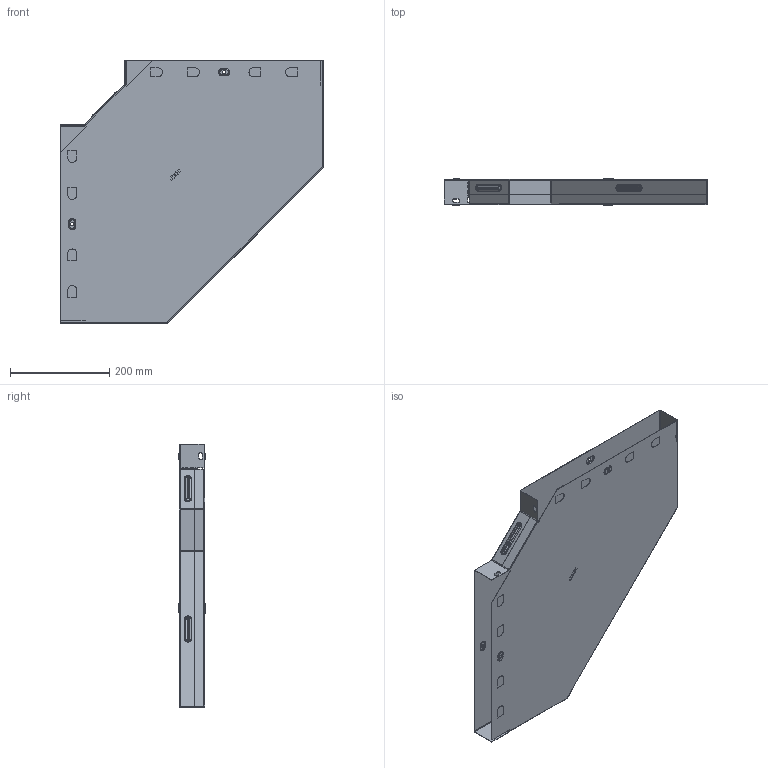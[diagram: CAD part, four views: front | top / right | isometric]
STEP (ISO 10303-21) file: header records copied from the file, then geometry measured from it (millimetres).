
FILE_DESCRIPTION (( 'STEP AP214' ), '1' );
FILE_NAME ('g9050400_捘.STEP', '2019-06-10T09:53:39', ( '砐錪賧瘔蠈錪 Windows' ), ( '' ), 'SwSTEP 2.0', 'SolidWorks 2018', '' );
FILE_SCHEMA (( 'AUTOMOTIVE_DESIGN' ));
Length unit declared in the file: millimetre
Products named in the file (1): g9050400_捘
Bounding box: 530.8 x 53.8 x 530.8 mm (x, y, z)
Volume: 404390 mm3; surface area: 1015718.8 mm2
Topology: 2 solids, 2 shells, 539 faces, 1461 edges, 942 vertices
Faces by surface type: plane 312, cylinder 137, torus 64, bspline 26
Entity records: 18246 total; most frequent: CARTESIAN_POINT 4419, ORIENTED_EDGE 2922, DIRECTION 2779, EDGE_CURVE 1461, LINE 1043, VECTOR 1043, VERTEX_POINT 942, AXIS2_PLACEMENT_3D 868
